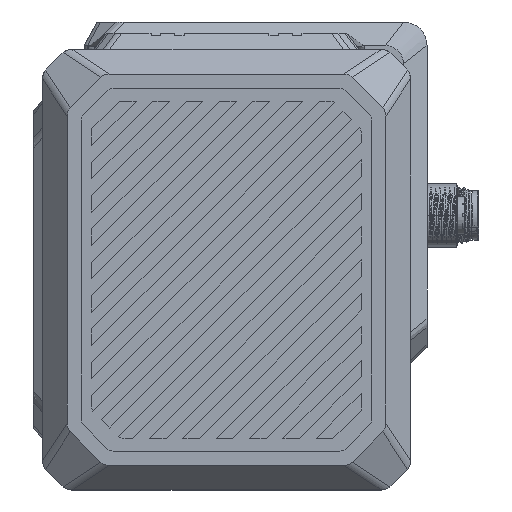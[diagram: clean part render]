
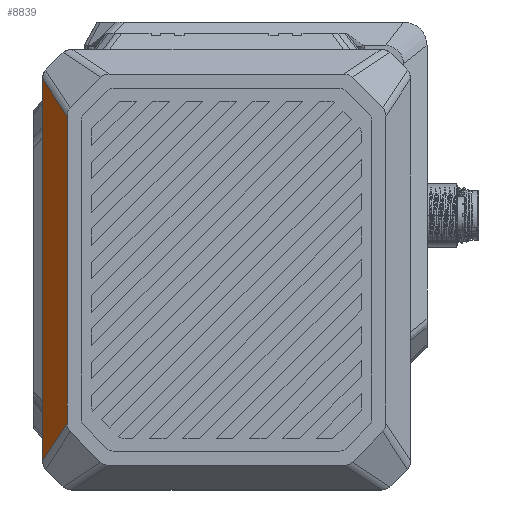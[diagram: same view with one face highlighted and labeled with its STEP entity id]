
A CAD part, front view. The second image highlights one B-rep face of the part: STEP entity #8839.
In plain terms, the highlighted planar face has unit normal (-0.753, -0.658, 0).
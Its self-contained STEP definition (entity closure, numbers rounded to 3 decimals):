
#6149=DIRECTION('',(0.466,-0.533,-0.706));
#6150=VECTOR('',#6149,11.259);
#6151=CARTESIAN_POINT('',(-39.,-240.,
40.458));
#6152=LINE('',#6151,#6150);
#6153=DIRECTION('',(0.,0.,-1.));
#6154=VECTOR('',#6153,65.016);
#6155=CARTESIAN_POINT('',(-33.75,-246.,
32.508));
#6156=LINE('',#6155,#6154);
#6157=DIRECTION('',(-0.466,0.533,-0.706));
#6158=VECTOR('',#6157,11.259);
#6159=CARTESIAN_POINT('',(-33.75,-246.,
-32.508));
#6160=LINE('',#6159,#6158);
#6161=CARTESIAN_POINT('',(-33.75,-246.,
-32.508));
#6481=DIRECTION('',(0.,0.,-1.));
#6482=VECTOR('',#6481,80.915);
#6483=CARTESIAN_POINT('',(-39.,-240.,
40.458));
#6484=LINE('',#6483,#6482);
#8083=VERTEX_POINT('',#6161);
#8084=CARTESIAN_POINT('',(-33.75,-246.,
32.508));
#8085=VERTEX_POINT('',#8084);
#8127=CARTESIAN_POINT('',(-39.,-240.,
40.458));
#8128=VERTEX_POINT('',#8127);
#8129=CARTESIAN_POINT('',(-39.,-240.,
-40.458));
#8130=VERTEX_POINT('',#8129);
#8826=CARTESIAN_POINT('',(-36.375,-243.,0.));
#8827=DIRECTION('',(0.753,0.659,0.));
#8828=DIRECTION('',(0.,0.,-1.));
#8829=AXIS2_PLACEMENT_3D('',#8826,#8827,#8828);
#8830=PLANE('',#8829);
#8831=ORIENTED_EDGE('',*,*,#8818,.T.);
#8832=ORIENTED_EDGE('',*,*,#8736,.T.);
#8834=ORIENTED_EDGE('',*,*,#8833,.T.);
#8836=ORIENTED_EDGE('',*,*,#8835,.F.);
#8837=EDGE_LOOP('',(#8831,#8832,#8834,#8836));
#8838=FACE_OUTER_BOUND('',#8837,.F.);
#8736=EDGE_CURVE('',#8085,#8083,#6156,.T.);
#8818=EDGE_CURVE('',#8128,#8085,#6152,.T.);
#8833=EDGE_CURVE('',#8083,#8130,#6160,.T.);
#8835=EDGE_CURVE('',#8128,#8130,#6484,.T.);
#8839=ADVANCED_FACE('',(#8838),#8830,.F.);
